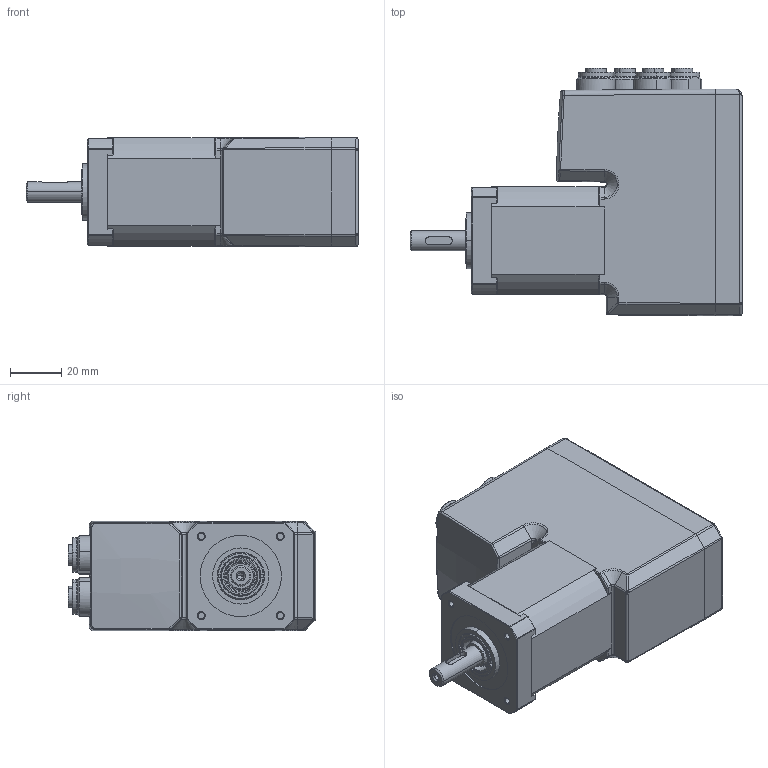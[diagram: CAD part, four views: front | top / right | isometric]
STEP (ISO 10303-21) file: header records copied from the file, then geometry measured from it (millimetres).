
FILE_DESCRIPTION((''),'2;1');
FILE_NAME('STEPPERASSY_ASM','2023-05-28T11:47:31',('Administrator'),(''),'CREO PARAMETRIC BY PTC INC, 2022014','CREO PARAMETRIC BY PTC INC, 2022014','');
FILE_SCHEMA(('AUTOMOTIVE_DESIGN { 1 0 10303 214 1 1 1 1 }'));
Length unit declared in the file: millimetre
Products named in the file (7): CONNECTOR_RADIAL; BODY; FRONT; SHAFT_8; SEALING; MIS17_ASM; STEPPERASSY_ASM
Assembly tree (6 placements, depth 3):
  STEPPERASSY_ASM
    MIS17_ASM
      CONNECTOR_RADIAL
      BODY
      FRONT
      SHAFT_8
      SEALING
Bounding box: 130 x 96.94 x 43.06 mm (x, y, z)
Volume: 320734.4 mm3; surface area: 44280.6 mm2
Topology: 5 solids, 5 shells, 531 faces, 1218 edges, 715 vertices
Faces by surface type: plane 182, cylinder 178, cone 84, bspline 45, torus 38, sphere 4
Entity records: 25643 total; most frequent: CARTESIAN_POINT 6258, DIRECTION 2730, ORIENTED_EDGE 2408, EDGE_CURVE 1204, AXIS2_PLACEMENT_3D 1070, PRESENTATION_STYLE_ASSIGNMENT 779, FILL_AREA_STYLE_COLOUR 766, FILL_AREA_STYLE 766
